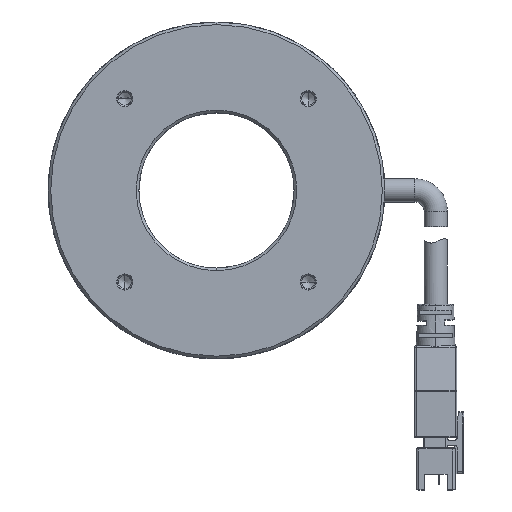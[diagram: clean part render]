
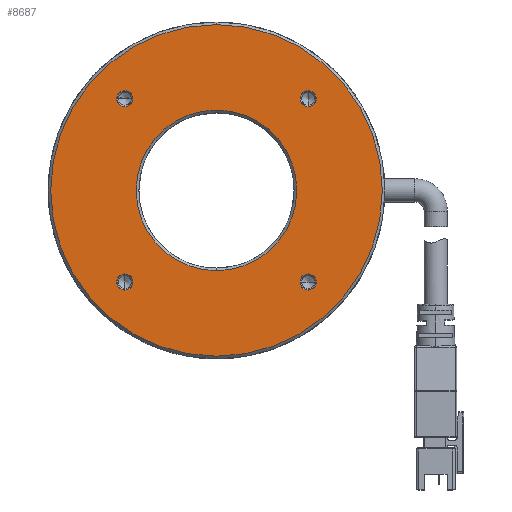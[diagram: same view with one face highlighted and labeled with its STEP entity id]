
A CAD part, top view. The second image highlights one B-rep face of the part: STEP entity #8687.
In plain terms, the highlighted planar face has unit normal (0, 0, 1).
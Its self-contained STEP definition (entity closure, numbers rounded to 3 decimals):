
#2027=CARTESIAN_POINT('',(17.678,17.678,1.5));
#2028=DIRECTION('',(0.,0.,-1.));
#2029=DIRECTION('',(0.,-1.,0.));
#2030=AXIS2_PLACEMENT_3D('',#2027,#2028,#2029);
#2032=CARTESIAN_POINT('',(17.678,17.678,1.5));
#2033=DIRECTION('',(0.,0.,-1.));
#2034=DIRECTION('',(0.,1.,0.));
#2035=AXIS2_PLACEMENT_3D('',#2032,#2033,#2034);
#2037=CARTESIAN_POINT('',(-17.678,-17.678,1.5));
#2038=DIRECTION('',(0.,0.,-1.));
#2039=DIRECTION('',(0.,1.,0.));
#2040=AXIS2_PLACEMENT_3D('',#2037,#2038,#2039);
#2042=CARTESIAN_POINT('',(-17.678,-17.678,1.5));
#2043=DIRECTION('',(0.,0.,-1.));
#2044=DIRECTION('',(0.,-1.,0.));
#2045=AXIS2_PLACEMENT_3D('',#2042,#2043,#2044);
#2047=CARTESIAN_POINT('',(0.,0.,1.5));
#2048=DIRECTION('',(0.,0.,-1.));
#2049=DIRECTION('',(0.,1.,0.));
#2050=AXIS2_PLACEMENT_3D('',#2047,#2048,#2049);
#2052=CARTESIAN_POINT('',(0.,0.,1.5));
#2053=DIRECTION('',(0.,0.,-1.));
#2054=DIRECTION('',(0.,-1.,0.));
#2055=AXIS2_PLACEMENT_3D('',#2052,#2053,#2054);
#2057=CARTESIAN_POINT('',(0.,0.,1.5));
#2058=DIRECTION('',(0.,0.,1.));
#2059=DIRECTION('',(0.,1.,0.));
#2060=AXIS2_PLACEMENT_3D('',#2057,#2058,#2059);
#2062=CARTESIAN_POINT('',(0.,0.,1.5));
#2063=DIRECTION('',(0.,0.,1.));
#2064=DIRECTION('',(0.,-1.,0.));
#2065=AXIS2_PLACEMENT_3D('',#2062,#2063,#2064);
#2115=CARTESIAN_POINT('',(17.678,-17.678,1.5));
#2116=DIRECTION('',(0.,0.,-1.));
#2117=DIRECTION('',(-1.,0.,0.));
#2118=AXIS2_PLACEMENT_3D('',#2115,#2116,#2117);
#2129=CARTESIAN_POINT('',(17.678,-17.678,1.5));
#2130=DIRECTION('',(0.,0.,-1.));
#2131=DIRECTION('',(1.,0.,0.));
#2132=AXIS2_PLACEMENT_3D('',#2129,#2130,#2131);
#2213=CARTESIAN_POINT('',(-17.678,17.678,1.5));
#2214=DIRECTION('',(0.,0.,-1.));
#2215=DIRECTION('',(-1.,0.,0.));
#2216=AXIS2_PLACEMENT_3D('',#2213,#2214,#2215);
#2227=CARTESIAN_POINT('',(-17.678,17.678,1.5));
#2228=DIRECTION('',(0.,0.,-1.));
#2229=DIRECTION('',(1.,0.,0.));
#2230=AXIS2_PLACEMENT_3D('',#2227,#2228,#2229);
#5102=CARTESIAN_POINT('',(0.,-32.,1.5));
#5103=CARTESIAN_POINT('',(0.,32.,1.5));
#5104=VERTEX_POINT('',#5102);
#5105=VERTEX_POINT('',#5103);
#5106=CARTESIAN_POINT('',(0.,-15.5,1.5));
#5107=CARTESIAN_POINT('',(0.,15.5,1.5));
#5108=VERTEX_POINT('',#5106);
#5109=VERTEX_POINT('',#5107);
#5110=CARTESIAN_POINT('',(-17.678,-19.228,1.5));
#5111=CARTESIAN_POINT('',(-17.678,-16.128,1.5));
#5112=VERTEX_POINT('',#5110);
#5113=VERTEX_POINT('',#5111);
#5114=CARTESIAN_POINT('',(17.678,19.228,1.5));
#5115=CARTESIAN_POINT('',(17.678,16.128,1.5));
#5116=VERTEX_POINT('',#5114);
#5117=VERTEX_POINT('',#5115);
#5166=CARTESIAN_POINT('',(-19.228,17.678,1.5));
#5168=VERTEX_POINT('',#5166);
#5171=CARTESIAN_POINT('',(-16.128,17.678,1.5));
#5173=VERTEX_POINT('',#5171);
#5190=CARTESIAN_POINT('',(16.128,-17.678,1.5));
#5192=VERTEX_POINT('',#5190);
#5195=CARTESIAN_POINT('',(19.228,-17.678,1.5));
#5197=VERTEX_POINT('',#5195);
#8648=CARTESIAN_POINT('',(0.,0.,1.5));
#8649=DIRECTION('',(0.,0.,-1.));
#8650=DIRECTION('',(0.,1.,0.));
#8651=AXIS2_PLACEMENT_3D('',#8648,#8649,#8650);
#8652=PLANE('',#8651);
#8654=ORIENTED_EDGE('',*,*,#8653,.F.);
#8656=ORIENTED_EDGE('',*,*,#8655,.F.);
#8657=EDGE_LOOP('',(#8654,#8656));
#8658=FACE_OUTER_BOUND('',#8657,.F.);
#8660=ORIENTED_EDGE('',*,*,#8659,.F.);
#8662=ORIENTED_EDGE('',*,*,#8661,.F.);
#8663=EDGE_LOOP('',(#8660,#8662));
#8664=FACE_BOUND('',#8663,.F.);
#8666=ORIENTED_EDGE('',*,*,#8665,.F.);
#8668=ORIENTED_EDGE('',*,*,#8667,.F.);
#8669=EDGE_LOOP('',(#8666,#8668));
#8670=FACE_BOUND('',#8669,.F.);
#8672=ORIENTED_EDGE('',*,*,#8671,.F.);
#8674=ORIENTED_EDGE('',*,*,#8673,.F.);
#8675=EDGE_LOOP('',(#8672,#8674));
#8676=FACE_BOUND('',#8675,.F.);
#8677=ORIENTED_EDGE('',*,*,#8627,.F.);
#8678=ORIENTED_EDGE('',*,*,#8641,.F.);
#8679=EDGE_LOOP('',(#8677,#8678));
#8680=FACE_BOUND('',#8679,.F.);
#8682=ORIENTED_EDGE('',*,*,#8681,.F.);
#8684=ORIENTED_EDGE('',*,*,#8683,.F.);
#8685=EDGE_LOOP('',(#8682,#8684));
#8686=FACE_BOUND('',#8685,.F.);
#8687=ADVANCED_FACE('',(#8658,#8664,#8670,#8676,#8680,#8686),#8652,.F.);
#2031=CIRCLE('',#2030,1.55);
#2036=CIRCLE('',#2035,1.55);
#2041=CIRCLE('',#2040,1.55);
#2046=CIRCLE('',#2045,1.55);
#2051=CIRCLE('',#2050,15.5);
#2056=CIRCLE('',#2055,15.5);
#2061=CIRCLE('',#2060,32.);
#2066=CIRCLE('',#2065,32.);
#2119=CIRCLE('',#2118,1.55);
#2133=CIRCLE('',#2132,1.55);
#2217=CIRCLE('',#2216,1.55);
#2231=CIRCLE('',#2230,1.55);
#8627=EDGE_CURVE('',#5109,#5108,#2051,.T.);
#8641=EDGE_CURVE('',#5108,#5109,#2056,.T.);
#8653=EDGE_CURVE('',#5105,#5104,#2061,.T.);
#8655=EDGE_CURVE('',#5104,#5105,#2066,.T.);
#8659=EDGE_CURVE('',#5192,#5197,#2119,.T.);
#8661=EDGE_CURVE('',#5197,#5192,#2133,.T.);
#8665=EDGE_CURVE('',#5113,#5112,#2041,.T.);
#8667=EDGE_CURVE('',#5112,#5113,#2046,.T.);
#8671=EDGE_CURVE('',#5168,#5173,#2217,.T.);
#8673=EDGE_CURVE('',#5173,#5168,#2231,.T.);
#8681=EDGE_CURVE('',#5117,#5116,#2031,.T.);
#8683=EDGE_CURVE('',#5116,#5117,#2036,.T.);
